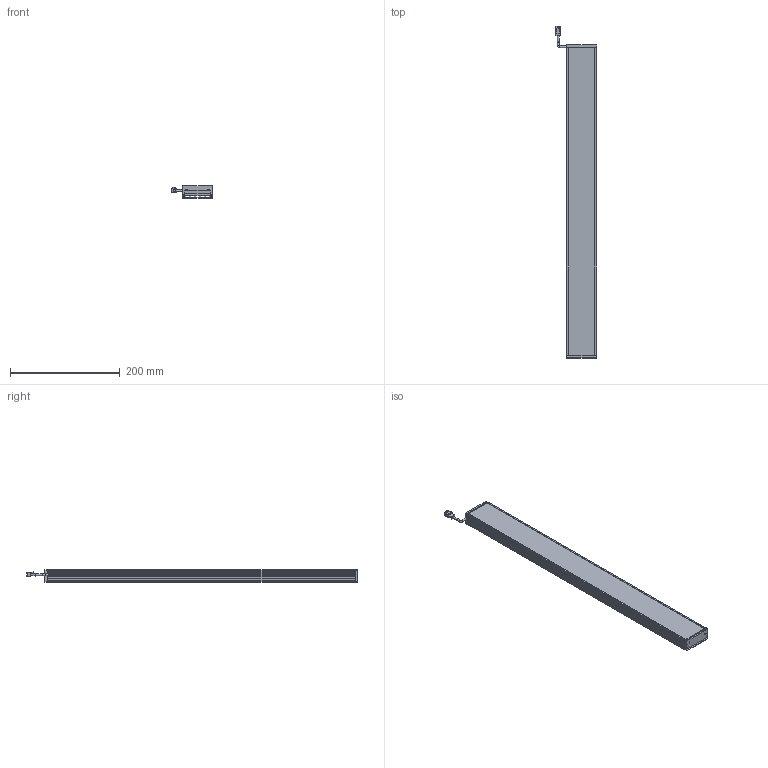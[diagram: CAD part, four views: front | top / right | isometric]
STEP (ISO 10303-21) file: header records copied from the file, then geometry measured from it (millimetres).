
FILE_DESCRIPTION(/* description */ (''),/* implementation_level */ '2;1');
FILE_NAME(/* name */ '',/* time_stamp */ '2024-02-21T15:31:08+08:00',/* author */ (''),/* organization */ (''),/* preprocessor_version */ 'ST-DEVELOPER v20',/* originating_system */ 'Autodesk Translation Framework v12.20.1.177',/* authorisation */ '');
FILE_SCHEMA (('AUTOMOTIVE_DESIGN { 1 0 10303 214 3 1 1 }'));
Length unit declared in the file: millimetre
Products named in the file (6): L55; 3拼母头 v2; 主体; 漫射板; 挡头 (1); 挡头
Assembly tree (5 placements, depth 2):
  L55
    3拼母头 v2
    主体
    漫射板
    挡头 (1)
    挡头
Bounding box: 75 x 604 x 22 mm (x, y, z)
Volume: 300928.9 mm3; surface area: 248348.7 mm2
Topology: 6 solids, 6 shells, 455 faces, 1297 edges, 862 vertices
Faces by surface type: plane 326, cylinder 124, cone 4, torus 1
Full cylindrical faces by diameter (mm): 2.529 x4, 3.8 x3
Entity records: 14941 total; most frequent: CARTESIAN_POINT 2630, ORIENTED_EDGE 2586, DIRECTION 2487, EDGE_CURVE 1293, LINE 1029, VECTOR 1029, VERTEX_POINT 862, AXIS2_PLACEMENT_3D 729
